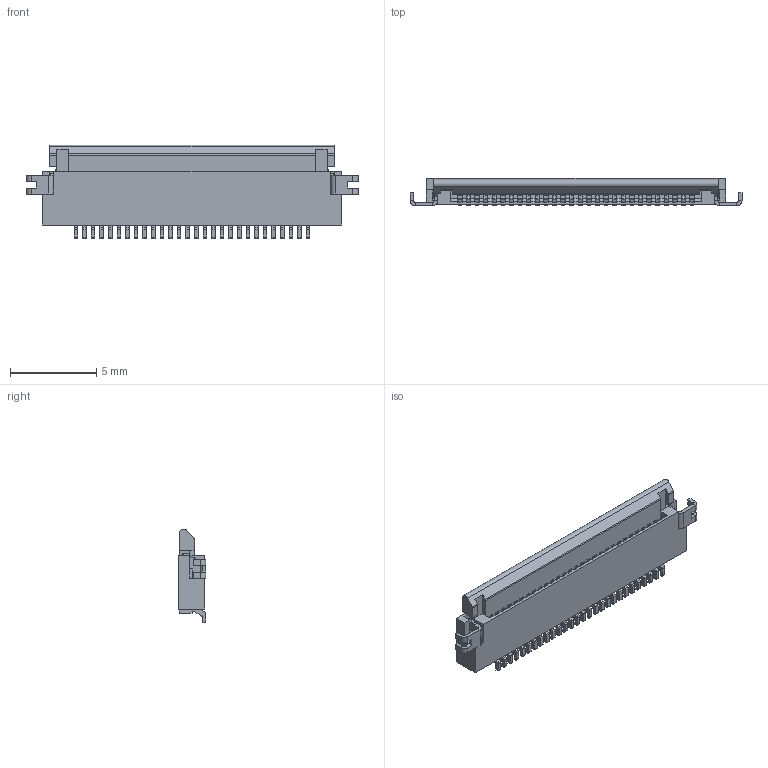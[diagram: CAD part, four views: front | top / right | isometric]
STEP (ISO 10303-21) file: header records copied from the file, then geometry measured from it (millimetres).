
FILE_DESCRIPTION((''),'2;1');
FILE_NAME('88195-28XX','2009-09-01T',('snow'),(''),'PRO/ENGINEER BY PARAMETRIC TECHNOLOGY CORPORATION, 2007450','PRO/ENGINEER BY PARAMETRIC TECHNOLOGY CORPORATION, 2007450','');
FILE_SCHEMA(('CONFIG_CONTROL_DESIGN'));
Length unit declared in the file: millimetre
Products named in the file (1): 88195-28XX
Bounding box: 19.3 x 1.6 x 5.45 mm (x, y, z)
Volume: 72.2 mm3; surface area: 605.7 mm2
Topology: 1 solids, 1 shells, 1868 faces, 5895 edges, 3849 vertices
Faces by surface type: plane 1215, cylinder 653
Entity records: 65514 total; most frequent: ORIENTED_EDGE 11790, CARTESIAN_POINT 11616, DIRECTION 10946, EDGE_CURVE 5895, VECTOR 4576, LINE 4576, VERTEX_POINT 3849, AXIS2_PLACEMENT_3D 3185
